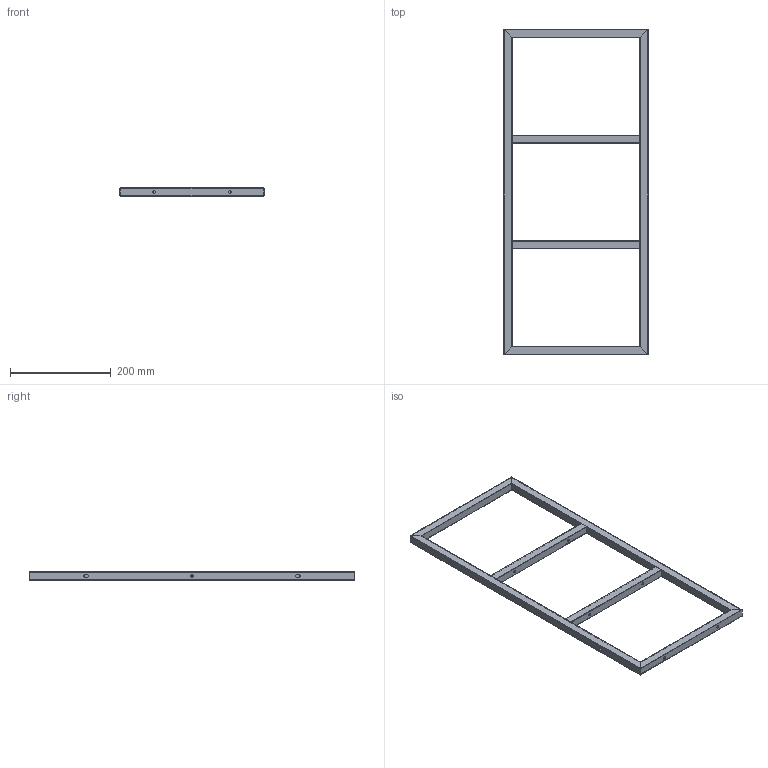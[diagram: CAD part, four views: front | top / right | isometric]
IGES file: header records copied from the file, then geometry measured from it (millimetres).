
Start section: SolidWorks IGES file using analytic representation for surfaces
Bounding box: 286 x 646 x 16 mm (x, y, z)
Surface area: 264945.1 mm2 (no closed solid volume)
Topology: 0 solids, 0 shells, 128 faces, 2048 edges, 2048 vertices
Faces by surface type: bspline 68, revolution 60
